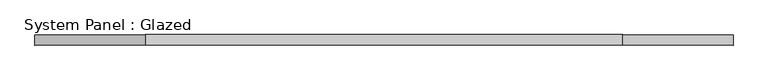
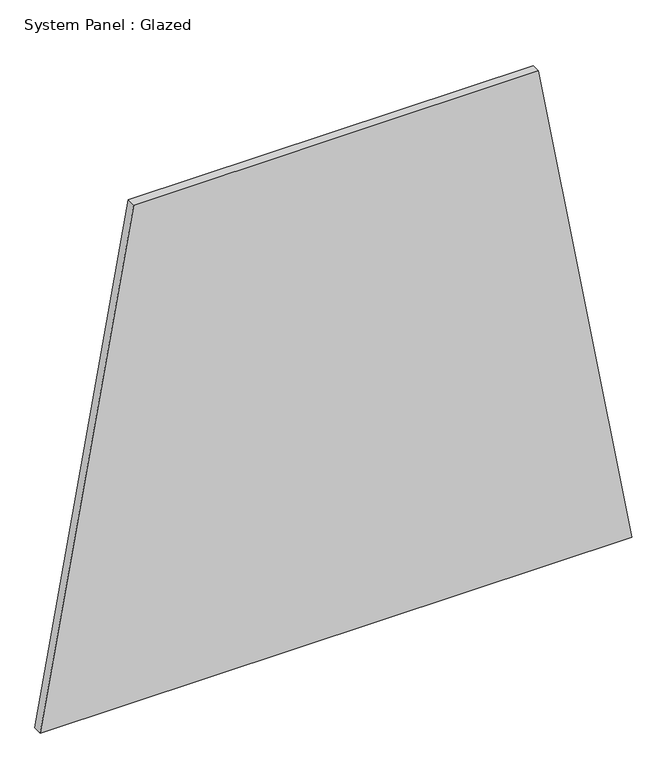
"""IFC4 building model written with IfcOpenShell, lengths in millimetres: plate geometry, System Panel : Glazed."""

from ifc_helpers import new_model, si_unit, frame, origin, place, context, project, spatial, polyline, outline, extrude, source, transform, mapped, element, save


def system_panel_glazed_059680cf(model_context):
    return source(origin(), model_context, "Body", "SweptSolid", [
        extrude(outline(polyline([(0.0, -844.8092795), (0.0, 844.8092795), (1500.4608199, 577.988501), (1500.4608199, -577.988501), (0.0, -844.8092795)])), frame((0.0, -44.45, 0.0), z_axis=(0.0, 1.0, 0.0), x_axis=(0.0, 0.0, 1.0)), (0.0, 0.0, 1.0), 25.4),
    ])


if __name__ == "__main__":
    model = new_model("IFC4")
    model_context = context("Model", 3, world=origin())
    ifc_project = project(units=[si_unit("LENGTHUNIT", "METRE", prefix="MILLI")], contexts=[model_context])
    site = spatial("IfcSite", under=ifc_project)
    building = spatial("IfcBuilding", under=site)
    placement = place(None, origin())
    system_panel_glazed_shape = system_panel_glazed_059680cf(model_context)
    element("IfcPlate", 1, ObjectType="System Panel : Glazed", at=placement, inside=building, context=model_context, shape_type="MappedRepresentation", body=[
        mapped(system_panel_glazed_shape, transform((0.0, 0.0, 0.0), x_axis=(1.0, 0.0, 0.0), y_axis=(0.0, 1.0, 0.0), z_axis=(0.0, 0.0, 1.0))),
    ])
    save(model, "model.ifc")
